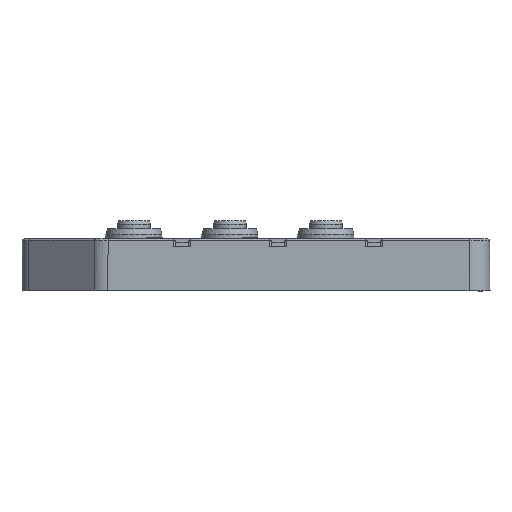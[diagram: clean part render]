
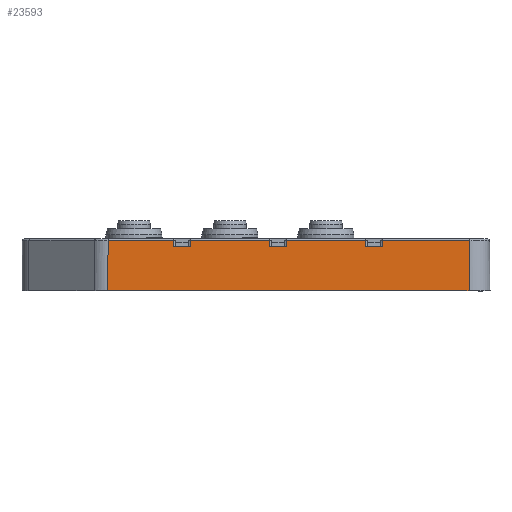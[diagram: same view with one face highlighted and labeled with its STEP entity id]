
A CAD part, front view. The second image highlights one B-rep face of the part: STEP entity #23593.
In plain terms, the highlighted planar face has unit normal (0, -1, 0.009).
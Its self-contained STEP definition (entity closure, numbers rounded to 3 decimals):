
#2346=CARTESIAN_POINT('',(41.791,-26.891,-0.496));
#2347=VERTEX_POINT('',#2346);
#2636=CARTESIAN_POINT('',(41.9,-27.,-13.));
#2637=VERTEX_POINT('',#2636);
#2638=CARTESIAN_POINT('',(41.791,-26.891,-0.496));
#2639=DIRECTION('',(0.009,-0.009,-1.));
#2640=VECTOR('',#2639,12.505);
#2641=LINE('',#2638,#2640);
#2642=EDGE_CURVE('',#2347,#2637,#2641,.T.);
#4804=CARTESIAN_POINT('',(15.885,-26.904,-2.));
#4805=VERTEX_POINT('',#4804);
#4821=CARTESIAN_POINT('',(15.859,-26.891,-0.496));
#4822=VERTEX_POINT('',#4821);
#4830=CARTESIAN_POINT('',(15.885,-26.904,-2.));
#4831=DIRECTION('',(-0.017,0.009,1.));
#4832=VECTOR('',#4831,1.505);
#4833=LINE('',#4830,#4832);
#4834=EDGE_CURVE('',#4805,#4822,#4833,.T.);
#4931=CARTESIAN_POINT('',(19.941,-26.891,-0.496));
#4932=VERTEX_POINT('',#4931);
#4950=CARTESIAN_POINT('',(19.915,-26.904,-2.));
#4951=VERTEX_POINT('',#4950);
#4959=CARTESIAN_POINT('',(19.941,-26.891,-0.496));
#4960=DIRECTION('',(-0.017,-0.009,-1.));
#4961=VECTOR('',#4960,1.505);
#4962=LINE('',#4959,#4961);
#4963=EDGE_CURVE('',#4932,#4951,#4962,.T.);
#6649=CARTESIAN_POINT('',(19.915,-26.904,-2.));
#6650=DIRECTION('',(-1.0,0.0,0.0));
#6651=VECTOR('',#6650,4.03);
#6652=LINE('',#6649,#6651);
#6653=EDGE_CURVE('',#4951,#4805,#6652,.T.);
#12000=CARTESIAN_POINT('',(-4.059,-26.891,-0.496));
#12001=VERTEX_POINT('',#12000);
#12013=CARTESIAN_POINT('',(-4.085,-26.904,-2.));
#12014=VERTEX_POINT('',#12013);
#12022=CARTESIAN_POINT('',(-4.059,-26.891,-0.496));
#12023=DIRECTION('',(-0.017,-0.009,-1.));
#12024=VECTOR('',#12023,1.505);
#12025=LINE('',#12022,#12024);
#12026=EDGE_CURVE('',#12001,#12014,#12025,.T.);
#12090=CARTESIAN_POINT('',(-8.141,-26.891,-0.496));
#12091=VERTEX_POINT('',#12090);
#12108=CARTESIAN_POINT('',(-8.115,-26.904,-2.));
#12109=VERTEX_POINT('',#12108);
#12110=CARTESIAN_POINT('',(-8.115,-26.904,-2.));
#12111=DIRECTION('',(-0.017,0.009,1.));
#12112=VECTOR('',#12111,1.505);
#12113=LINE('',#12110,#12112);
#12114=EDGE_CURVE('',#12109,#12091,#12113,.T.);
#12196=CARTESIAN_POINT('',(-28.059,-26.891,-0.496));
#12197=VERTEX_POINT('',#12196);
#12215=CARTESIAN_POINT('',(-28.085,-26.904,-2.));
#12216=VERTEX_POINT('',#12215);
#12224=CARTESIAN_POINT('',(-28.059,-26.891,-0.496));
#12225=DIRECTION('',(-0.017,-0.009,-1.));
#12226=VECTOR('',#12225,1.505);
#12227=LINE('',#12224,#12226);
#12228=EDGE_CURVE('',#12197,#12216,#12227,.T.);
#12292=CARTESIAN_POINT('',(-32.141,-26.891,-0.496));
#12293=VERTEX_POINT('',#12292);
#12310=CARTESIAN_POINT('',(-32.115,-26.904,-2.));
#12311=VERTEX_POINT('',#12310);
#12312=CARTESIAN_POINT('',(-32.115,-26.904,-2.));
#12313=DIRECTION('',(-0.017,0.009,1.));
#12314=VECTOR('',#12313,1.505);
#12315=LINE('',#12312,#12314);
#12316=EDGE_CURVE('',#12311,#12293,#12315,.T.);
#13039=CARTESIAN_POINT('',(-48.588,-26.891,-0.496));
#13040=VERTEX_POINT('',#13039);
#13051=CARTESIAN_POINT('',(-48.588,-26.891,-0.496));
#13052=DIRECTION('',(1.0,0.0,0.0));
#13053=VECTOR('',#13052,16.446);
#13054=LINE('',#13051,#13053);
#13055=EDGE_CURVE('',#12293,#13040,#13054,.F.);
#13119=CARTESIAN_POINT('',(-28.059,-26.891,-0.496));
#13120=DIRECTION('',(1.0,0.0,0.0));
#13121=VECTOR('',#13120,19.917);
#13122=LINE('',#13119,#13121);
#13123=EDGE_CURVE('',#12091,#12197,#13122,.F.);
#20177=CARTESIAN_POINT('',(-32.115,-26.904,-2.));
#20178=DIRECTION('',(1.0,0.0,0.0));
#20179=VECTOR('',#20178,4.03);
#20180=LINE('',#20177,#20179);
#20181=EDGE_CURVE('',#12216,#12311,#20180,.F.);
#22572=CARTESIAN_POINT('',(-48.631,-27.0,-13.));
#22573=VERTEX_POINT('',#22572);
#22581=CARTESIAN_POINT('',(-48.588,-26.891,-0.496));
#22582=DIRECTION('',(-0.003,-0.009,-1.));
#22583=VECTOR('',#22582,12.505);
#22584=LINE('',#22581,#22583);
#22585=EDGE_CURVE('',#13040,#22573,#22584,.T.);
#22698=CARTESIAN_POINT('',(-8.115,-26.904,-2.));
#22699=DIRECTION('',(1.0,0.0,0.0));
#22700=VECTOR('',#22699,4.03);
#22701=LINE('',#22698,#22700);
#22702=EDGE_CURVE('',#12014,#12109,#22701,.F.);
#23206=CARTESIAN_POINT('',(-4.059,-26.891,-0.496));
#23207=DIRECTION('',(1.0,0.0,0.0));
#23208=VECTOR('',#23207,19.917);
#23209=LINE('',#23206,#23208);
#23210=EDGE_CURVE('',#12001,#4822,#23209,.T.);
#23259=CARTESIAN_POINT('',(-48.631,-27.0,-13.));
#23260=DIRECTION('',(1.0,0.0,0.0));
#23261=VECTOR('',#23260,90.531);
#23262=LINE('',#23259,#23261);
#23263=EDGE_CURVE('',#2637,#22573,#23262,.F.);
#23553=CARTESIAN_POINT('',(19.941,-26.891,-0.496));
#23554=DIRECTION('',(1.0,0.0,0.0));
#23555=VECTOR('',#23554,21.85);
#23556=LINE('',#23553,#23555);
#23557=EDGE_CURVE('',#4932,#2347,#23556,.T.);
#23570=CARTESIAN_POINT('',(-49.849,-27.003,-13.316));
#23571=DIRECTION('',(0.0,-1.,0.009));
#23572=DIRECTION('',(0.0,-0.009,-1.));
#23573=AXIS2_PLACEMENT_3D('',#23570,#23571,#23572);
#23574=PLANE('',#23573);
#23575=ORIENTED_EDGE('',*,*,#23263,.F.);
#23576=ORIENTED_EDGE('',*,*,#2642,.F.);
#23577=ORIENTED_EDGE('',*,*,#23557,.F.);
#23578=ORIENTED_EDGE('',*,*,#4963,.T.);
#23579=ORIENTED_EDGE('',*,*,#6653,.T.);
#23580=ORIENTED_EDGE('',*,*,#4834,.T.);
#23581=ORIENTED_EDGE('',*,*,#23210,.F.);
#23582=ORIENTED_EDGE('',*,*,#12026,.T.);
#23583=ORIENTED_EDGE('',*,*,#22702,.T.);
#23584=ORIENTED_EDGE('',*,*,#12114,.T.);
#23585=ORIENTED_EDGE('',*,*,#13123,.T.);
#23586=ORIENTED_EDGE('',*,*,#12228,.T.);
#23587=ORIENTED_EDGE('',*,*,#20181,.T.);
#23588=ORIENTED_EDGE('',*,*,#12316,.T.);
#23589=ORIENTED_EDGE('',*,*,#13055,.T.);
#23590=ORIENTED_EDGE('',*,*,#22585,.T.);
#23591=EDGE_LOOP('',(#23575,#23576,#23577,#23578,#23579,#23580,#23581,#23582,#23583,#23584,#23585,#23586,#23587,#23588,#23589,#23590));
#23592=FACE_OUTER_BOUND('',#23591,.T.);
#23593=ADVANCED_FACE('',(#23592),#23574,.T.);
